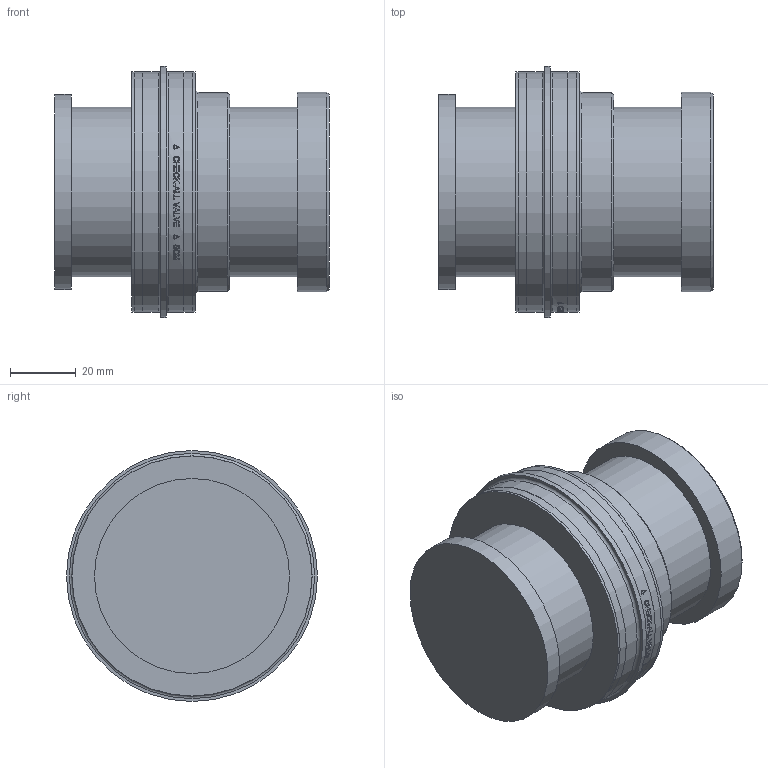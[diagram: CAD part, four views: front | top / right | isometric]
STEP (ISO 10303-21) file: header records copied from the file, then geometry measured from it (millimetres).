
FILE_DESCRIPTION( ( 'Unknown' ), '1' );
FILE_NAME( 'Y:/ENGR/3D Solid Edge Models/SC/SC-PRT/SCM.stp', 'Unknown', ( 'Unknown' ), ( 'Unknown' ), 'PSStep 14.0', 'Unknown', ' ' );
FILE_SCHEMA( ( 'AUTOMOTIVE_DESIGN { 1 0 10303 214 1 1 1 1 }' ) );
Length unit declared in the file: inch
Products named in the file (1): 1
Bounding box: 83.44 x 76.2 x 76.2 mm (x, y, z)
Volume: 233966.1 mm3; surface area: 27386.7 mm2
Topology: 1 solids, 1 shells, 216 faces, 536 edges, 355 vertices
Faces by surface type: plane 122, bspline 53, cylinder 35, cone 4, torus 2
Full cylindrical faces by diameter (mm): 51.428 x1, 51.435 x1, 59.182 x1, 60.445 x1, 60.452 x1, 72.866 x2, 72.873 x2, 72.898 x2, 76.197 x1
Entity records: 9697 total; most frequent: CARTESIAN_POINT 3977, ORIENTED_EDGE 1036, EDGE_CURVE 518, B_SPLINE_CURVE_WITH_KNOTS 489, DIRECTION 386, VERTEX_POINT 355, EDGE_LOOP 267, FACE_OUTER_BOUND 230
